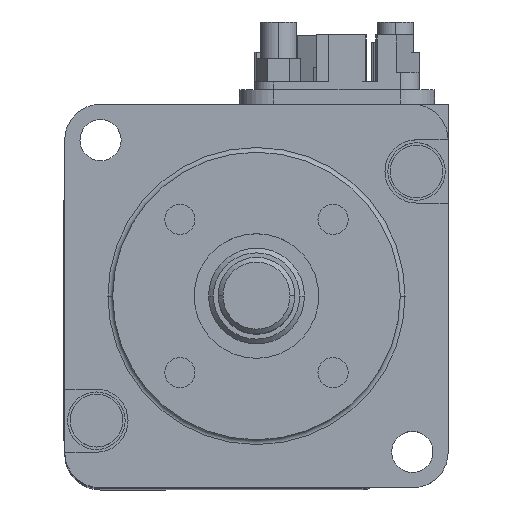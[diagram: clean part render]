
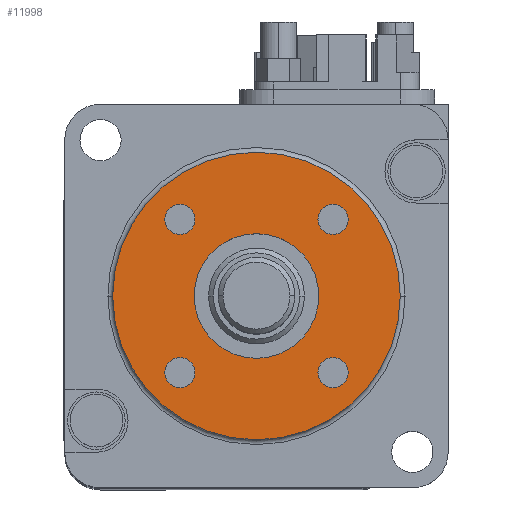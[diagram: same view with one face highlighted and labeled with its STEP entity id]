
A CAD part, top view. The second image highlights one B-rep face of the part: STEP entity #11998.
In plain terms, the highlighted planar face has unit normal (0, 0, 1).
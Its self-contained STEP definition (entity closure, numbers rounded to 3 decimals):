
#3 = FACE_BOUND ( 'NONE', #5071, .T. ) ;
#65 = DIRECTION ( 'NONE',  ( 1., 0., 0. ) ) ;
#226 = EDGE_CURVE ( 'NONE', #15813, #12734, #13954, .T. ) ;
#261 = VERTEX_POINT ( 'NONE', #14953 ) ;
#334 = DIRECTION ( 'NONE',  ( 0., 0., 1. ) ) ;
#352 = DIRECTION ( 'NONE',  ( 1., 0., 0. ) ) ;
#379 = AXIS2_PLACEMENT_3D ( 'NONE', #6693, #7971, #65 ) ;
#451 = VERTEX_POINT ( 'NONE', #9310 ) ;
#544 = DIRECTION ( 'NONE',  ( 1., 0., 0. ) ) ;
#759 = PLANE ( 'NONE',  #4056 ) ;
#1242 = EDGE_CURVE ( 'NONE', #11940, #7338, #7323, .T. ) ;
#1349 = VERTEX_POINT ( 'NONE', #10795 ) ;
#1457 = FACE_BOUND ( 'NONE', #16381, .T. ) ;
#1486 = EDGE_CURVE ( 'NONE', #12734, #15813, #5676, .T. ) ;
#1571 = DIRECTION ( 'NONE',  ( 1., 0., 0. ) ) ;
#1573 = CIRCLE ( 'NONE', #6551, 15. ) ;
#1583 = AXIS2_PLACEMENT_3D ( 'NONE', #4556, #15071, #5885 ) ;
#1670 = EDGE_LOOP ( 'NONE', ( #4701, #4419 ) ) ;
#1799 = VERTEX_POINT ( 'NONE', #12079 ) ;
#1888 = ORIENTED_EDGE ( 'NONE', *, *, #3246, .F. ) ;
#1996 = CARTESIAN_POINT ( 'NONE',  ( 0., 0., 2.5 ) ) ;
#2128 = ORIENTED_EDGE ( 'NONE', *, *, #1242, .F. ) ;
#2165 = CIRCLE ( 'NONE', #1583, 1.574 ) ;
#2226 = DIRECTION ( 'NONE',  ( 0., 0., 1. ) ) ;
#2849 = DIRECTION ( 'NONE',  ( 0., 0., 1. ) ) ;
#2897 = CARTESIAN_POINT ( 'NONE',  ( 9.564, -7.99, 2.5 ) ) ;
#2995 = CARTESIAN_POINT ( 'NONE',  ( -7.99, -7.99, 2.5 ) ) ;
#3020 = AXIS2_PLACEMENT_3D ( 'NONE', #14437, #10396, #11877 ) ;
#3064 = EDGE_CURVE ( 'NONE', #1799, #12196, #14663, .T. ) ;
#3095 = CIRCLE ( 'NONE', #5811, 1.574 ) ;
#3246 = EDGE_CURVE ( 'NONE', #451, #6864, #11408, .T. ) ;
#3381 = EDGE_CURVE ( 'NONE', #7338, #11940, #7096, .T. ) ;
#3507 = AXIS2_PLACEMENT_3D ( 'NONE', #14061, #2226, #6180 ) ;
#3637 = CIRCLE ( 'NONE', #379, 1.574 ) ;
#3662 = DIRECTION ( 'NONE',  ( 0., 0., 1. ) ) ;
#3771 = CARTESIAN_POINT ( 'NONE',  ( -6.416, -7.99, 2.5 ) ) ;
#3970 = DIRECTION ( 'NONE',  ( 1., 0., 0. ) ) ;
#4056 = AXIS2_PLACEMENT_3D ( 'NONE', #1996, #9943, #16475 ) ;
#4419 = ORIENTED_EDGE ( 'NONE', *, *, #10524, .F. ) ;
#4556 = CARTESIAN_POINT ( 'NONE',  ( 7.99, 7.99, 2.5 ) ) ;
#4576 = CARTESIAN_POINT ( 'NONE',  ( -7.99, -7.99, 2.5 ) ) ;
#4701 = ORIENTED_EDGE ( 'NONE', *, *, #3064, .F. ) ;
#5061 = EDGE_LOOP ( 'NONE', ( #12358, #7057 ) ) ;
#5071 = EDGE_LOOP ( 'NONE', ( #7648, #10902 ) ) ;
#5249 = CARTESIAN_POINT ( 'NONE',  ( 6.416, 7.99, 2.5 ) ) ;
#5382 = FACE_OUTER_BOUND ( 'NONE', #11920, .T. ) ;
#5610 = CARTESIAN_POINT ( 'NONE',  ( 0., 0., 2.5 ) ) ;
#5676 = CIRCLE ( 'NONE', #5722, 1.574 ) ;
#5722 = AXIS2_PLACEMENT_3D ( 'NONE', #13624, #5793, #544 ) ;
#5793 = DIRECTION ( 'NONE',  ( 0., 0., 1. ) ) ;
#5811 = AXIS2_PLACEMENT_3D ( 'NONE', #4576, #5848, #3970 ) ;
#5848 = DIRECTION ( 'NONE',  ( 0., 0., 1. ) ) ;
#5885 = DIRECTION ( 'NONE',  ( 1., 0., 0. ) ) ;
#6180 = DIRECTION ( 'NONE',  ( 1., 0., 0. ) ) ;
#6430 = ORIENTED_EDGE ( 'NONE', *, *, #3381, .F. ) ;
#6551 = AXIS2_PLACEMENT_3D ( 'NONE', #5610, #10706, #352 ) ;
#6693 = CARTESIAN_POINT ( 'NONE',  ( 7.99, -7.99, 2.5 ) ) ;
#6864 = VERTEX_POINT ( 'NONE', #2897 ) ;
#7057 = ORIENTED_EDGE ( 'NONE', *, *, #1486, .F. ) ;
#7096 = CIRCLE ( 'NONE', #14939, 6.5 ) ;
#7323 = CIRCLE ( 'NONE', #3020, 6.5 ) ;
#7338 = VERTEX_POINT ( 'NONE', #13027 ) ;
#7435 = DIRECTION ( 'NONE',  ( 1., 0., 0. ) ) ;
#7497 = CARTESIAN_POINT ( 'NONE',  ( 0., 0., 2.5 ) ) ;
#7648 = ORIENTED_EDGE ( 'NONE', *, *, #13573, .F. ) ;
#7924 = AXIS2_PLACEMENT_3D ( 'NONE', #11549, #15454, #8944 ) ;
#7954 = CARTESIAN_POINT ( 'NONE',  ( -6.416, 7.99, 2.5 ) ) ;
#7971 = DIRECTION ( 'NONE',  ( 0., 0., 1. ) ) ;
#8254 = EDGE_LOOP ( 'NONE', ( #2128, #6430 ) ) ;
#8390 = CARTESIAN_POINT ( 'NONE',  ( 7.99, 7.99, 2.5 ) ) ;
#8944 = DIRECTION ( 'NONE',  ( 1., 0., 0. ) ) ;
#9310 = CARTESIAN_POINT ( 'NONE',  ( 6.416, -7.99, 2.5 ) ) ;
#9674 = FACE_BOUND ( 'NONE', #5061, .T. ) ;
#9843 = ORIENTED_EDGE ( 'NONE', *, *, #10392, .T. ) ;
#9943 = DIRECTION ( 'NONE',  ( 0., 0., 1. ) ) ;
#10290 = EDGE_CURVE ( 'NONE', #6864, #451, #3637, .T. ) ;
#10301 = DIRECTION ( 'NONE',  ( 1., 0., 0. ) ) ;
#10392 = EDGE_CURVE ( 'NONE', #12393, #1349, #1573, .T. ) ;
#10396 = DIRECTION ( 'NONE',  ( 0., 0., 1. ) ) ;
#10524 = EDGE_CURVE ( 'NONE', #12196, #1799, #2165, .T. ) ;
#10706 = DIRECTION ( 'NONE',  ( 0., 0., 1. ) ) ;
#10795 = CARTESIAN_POINT ( 'NONE',  ( 15., 0., 2.5 ) ) ;
#10902 = ORIENTED_EDGE ( 'NONE', *, *, #12796, .F. ) ;
#11029 = CIRCLE ( 'NONE', #7924, 15. ) ;
#11170 = CARTESIAN_POINT ( 'NONE',  ( 6.5, 0., 2.5 ) ) ;
#11408 = CIRCLE ( 'NONE', #3507, 1.574 ) ;
#11549 = CARTESIAN_POINT ( 'NONE',  ( 0., 0., 2.5 ) ) ;
#11787 = AXIS2_PLACEMENT_3D ( 'NONE', #8390, #2849, #1571 ) ;
#11877 = DIRECTION ( 'NONE',  ( 1., 0., 0. ) ) ;
#11920 = EDGE_LOOP ( 'NONE', ( #9843, #13532 ) ) ;
#11940 = VERTEX_POINT ( 'NONE', #11170 ) ;
#11998 = ADVANCED_FACE ( 'NONE', ( #1457, #3, #9674, #14970, #15807, #5382 ), #759, .T. ) ;
#12079 = CARTESIAN_POINT ( 'NONE',  ( 9.564, 7.99, 2.5 ) ) ;
#12196 = VERTEX_POINT ( 'NONE', #5249 ) ;
#12211 = ORIENTED_EDGE ( 'NONE', *, *, #10290, .F. ) ;
#12358 = ORIENTED_EDGE ( 'NONE', *, *, #226, .F. ) ;
#12393 = VERTEX_POINT ( 'NONE', #14944 ) ;
#12594 = VERTEX_POINT ( 'NONE', #3771 ) ;
#12734 = VERTEX_POINT ( 'NONE', #15623 ) ;
#12796 = EDGE_CURVE ( 'NONE', #261, #12594, #16798, .T. ) ;
#13027 = CARTESIAN_POINT ( 'NONE',  ( -6.5, 0., 2.5 ) ) ;
#13532 = ORIENTED_EDGE ( 'NONE', *, *, #15659, .T. ) ;
#13573 = EDGE_CURVE ( 'NONE', #12594, #261, #3095, .T. ) ;
#13624 = CARTESIAN_POINT ( 'NONE',  ( -7.99, 7.99, 2.5 ) ) ;
#13954 = CIRCLE ( 'NONE', #14002, 1.574 ) ;
#14002 = AXIS2_PLACEMENT_3D ( 'NONE', #15466, #16473, #10301 ) ;
#14061 = CARTESIAN_POINT ( 'NONE',  ( 7.99, -7.99, 2.5 ) ) ;
#14437 = CARTESIAN_POINT ( 'NONE',  ( 0., 0., 2.5 ) ) ;
#14663 = CIRCLE ( 'NONE', #11787, 1.574 ) ;
#14939 = AXIS2_PLACEMENT_3D ( 'NONE', #7497, #3662, #7435 ) ;
#14944 = CARTESIAN_POINT ( 'NONE',  ( -15., 0., 2.5 ) ) ;
#14953 = CARTESIAN_POINT ( 'NONE',  ( -9.564, -7.99, 2.5 ) ) ;
#14970 = FACE_BOUND ( 'NONE', #1670, .T. ) ;
#15071 = DIRECTION ( 'NONE',  ( 0., 0., 1. ) ) ;
#15454 = DIRECTION ( 'NONE',  ( 0., 0., 1. ) ) ;
#15466 = CARTESIAN_POINT ( 'NONE',  ( -7.99, 7.99, 2.5 ) ) ;
#15623 = CARTESIAN_POINT ( 'NONE',  ( -9.564, 7.99, 2.5 ) ) ;
#15659 = EDGE_CURVE ( 'NONE', #1349, #12393, #11029, .T. ) ;
#15688 = AXIS2_PLACEMENT_3D ( 'NONE', #2995, #334, #16034 ) ;
#15807 = FACE_BOUND ( 'NONE', #8254, .T. ) ;
#15813 = VERTEX_POINT ( 'NONE', #7954 ) ;
#16034 = DIRECTION ( 'NONE',  ( 1., 0., 0. ) ) ;
#16381 = EDGE_LOOP ( 'NONE', ( #12211, #1888 ) ) ;
#16473 = DIRECTION ( 'NONE',  ( 0., 0., 1. ) ) ;
#16475 = DIRECTION ( 'NONE',  ( 1., 0., 0. ) ) ;
#16798 = CIRCLE ( 'NONE', #15688, 1.574 ) ;
